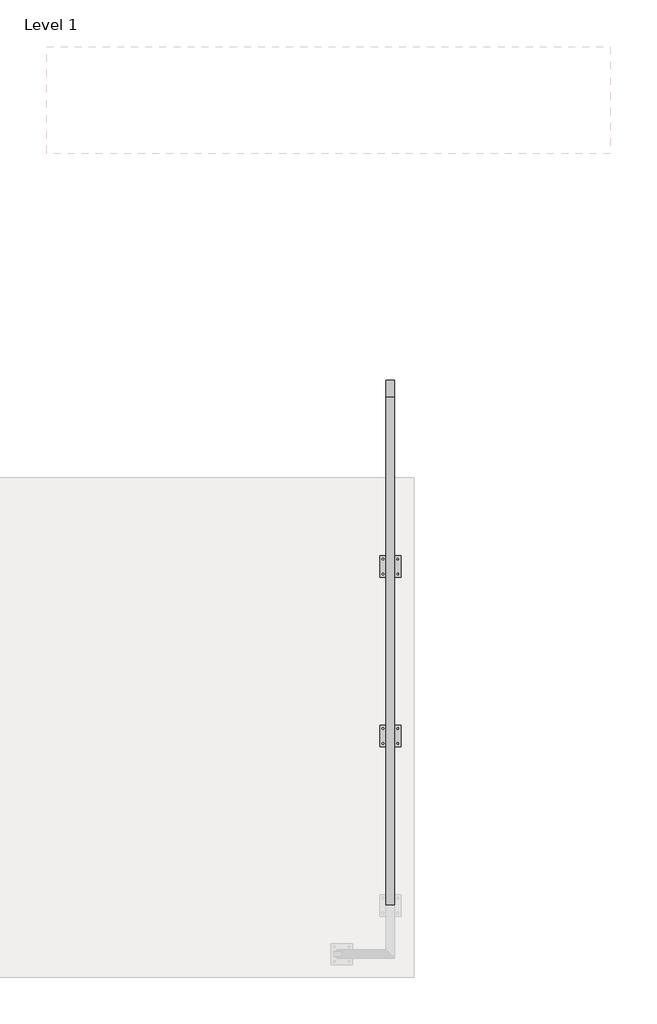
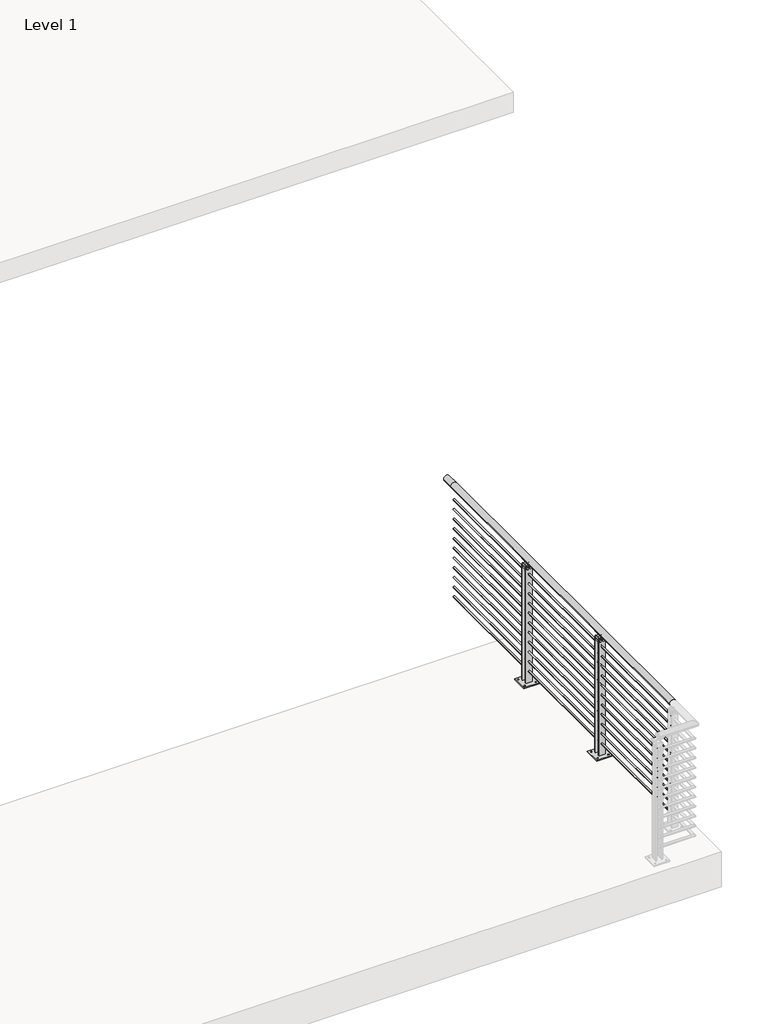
# One storey, part 8 of 36: 1 railing.
"""IFC4 building model written with IfcOpenShell, lengths in millimetres."""

from ifc_helpers import new_model, si_unit, point, frame, frame_2d, origin, origin_with_axes, place, context, project, spatial, polyline, circle_curve, trimmed, segment, composite_curve, outline, extrude, element, save
from ifc_brep_helpers import plane_surface, cylinder_surface, revolved_surface, advanced_brep

model = new_model("IFC4")

# Units and contexts
model_context = context("Model", 3, world=origin())
ifc_project = project(units=[si_unit("LENGTHUNIT", "METRE", prefix="MILLI")], contexts=[model_context])

# Site, building, storey
site = spatial("IfcSite", under=ifc_project)
building = spatial("IfcBuilding", under=site)
storey = spatial("IfcBuildingStorey", under=building, Name="Level 1", Elevation=0.0)

# Railing
placement = place(None, origin())
element("IfcRailing", 1, ObjectType="VIVA-BLADE-Multiline-Floor Mount-Straight", at=placement, inside=storey, context=model_context, shape_type="SolidModel", body=[
    advanced_brep(
    [(19628.0155247, -74583.4334719, 1054.1), (19577.2155247, -74583.4334719, 1054.1), (19628.0155247, -71535.4334719, 1054.1), (19577.2155247, -71535.4334719, 1054.1), (19628.0155247, -71433.8334719, 1054.1), (19577.2155247, -71433.8334719, 1054.1)],
    [
        (0, 1, circle_curve(frame((19602.6155247, -74583.4334719, 1054.1), z_axis=(0.0, -1.0, 0.0), x_axis=(-1.0, 0.0, 0.0)), 25.4)),
        (1, 0, circle_curve(frame((19602.6155247, -74583.4334719, 1054.1), z_axis=(0.0, -1.0, 0.0), x_axis=(-1.0, 0.0, 0.0)), 25.4)),
        (0, 2),
        (2, 3, circle_curve(frame((19602.6155247, -71535.4334719, 1054.1), z_axis=(0.0, -1.0, 0.0), x_axis=(-1.0, 0.0, 0.0)), 25.4)),
        (3, 1),
        (3, 2, circle_curve(frame((19602.6155247, -71535.4334719, 1054.1), z_axis=(0.0, -1.0, 0.0), x_axis=(-1.0, 0.0, 0.0)), 25.4)),
        (4, 5, circle_curve(frame((19602.6155247, -71433.8334719, 1054.1), z_axis=(0.0, 1.0, 0.0), x_axis=(-1.0, 0.0, 0.0)), 25.4)),
        (5, 4, circle_curve(frame((19602.6155247, -71433.8334719, 1054.1), z_axis=(0.0, 1.0, 0.0), x_axis=(-1.0, 0.0, 0.0)), 25.4)),
        (2, 4),
        (5, 3),
    ],
    [
        plane_surface(frame((19602.6155247, -74583.4334719, 1079.5), z_axis=(0.0, -1.0, 0.0), x_axis=(0.0, 0.0, 1.0))),
        cylinder_surface(frame((19602.6155247, -74583.4334719, 1054.1), z_axis=(0.0, -1.0, 0.0), x_axis=(-1.0, 0.0, 0.0)), 25.4),
        plane_surface(frame((19602.6155247, -71433.8334719, 1079.5), z_axis=(0.0, 1.0, 0.0), x_axis=(0.0, 0.0, 1.0))),
        cylinder_surface(frame((19602.6155247, -71535.4334719, 1054.1), z_axis=(0.0, -1.0, 0.0), x_axis=(-1.0, 0.0, 0.0)), 25.4),
    ],
    [
        (0, [[1, 2]]),
        (1, [[-1, 3, 4, 5]]),
        (1, [[-2, -5, 6, -3]]),
        (2, [[7, 8]]),
        (3, [[-4, 9, -8, 10]]),
        (3, [[-6, -10, -7, -9]]),
    ],
),
    extrude(outline(composite_curve([segment(trimmed(circle_curve(frame_2d((933.45, 19602.6155247)), 6.35), [point((933.45, 19596.2655247))], [point((933.45, 19608.9655247))], False, "CARTESIAN"), True, "CONTINUOUS"), segment(trimmed(circle_curve(frame_2d((933.45, 19602.6155247)), 6.35), [point((933.45, 19608.9655247))], [point((933.45, 19596.2655247))], False, "CARTESIAN"), True, "CONTINUOUS")], self_intersect=False)), frame((0.0, -74583.4334719, 0.0), z_axis=(0.0, 1.0, 0.0), x_axis=(0.0, 0.0, 1.0)), (0.0, 0.0, 1.0), 3048.0),
    extrude(outline(composite_curve([segment(trimmed(circle_curve(frame_2d((850.9, 19602.6155247)), 6.35), [point((850.9, 19596.2655247))], [point((850.9, 19608.9655247))], False, "CARTESIAN"), True, "CONTINUOUS"), segment(trimmed(circle_curve(frame_2d((850.9, 19602.6155247)), 6.35), [point((850.9, 19608.9655247))], [point((850.9, 19596.2655247))], False, "CARTESIAN"), True, "CONTINUOUS")], self_intersect=False)), frame((0.0, -74583.4334719, 0.0), z_axis=(0.0, 1.0, 0.0), x_axis=(0.0, 0.0, 1.0)), (0.0, 0.0, 1.0), 3048.0),
    extrude(outline(composite_curve([segment(trimmed(circle_curve(frame_2d((768.35, 19602.6155247)), 6.35), [point((768.35, 19596.2655247))], [point((768.35, 19608.9655247))], False, "CARTESIAN"), True, "CONTINUOUS"), segment(trimmed(circle_curve(frame_2d((768.35, 19602.6155247)), 6.35), [point((768.35, 19608.9655247))], [point((768.35, 19596.2655247))], False, "CARTESIAN"), True, "CONTINUOUS")], self_intersect=False)), frame((0.0, -74583.4334719, 0.0), z_axis=(0.0, 1.0, 0.0), x_axis=(0.0, 0.0, 1.0)), (0.0, 0.0, 1.0), 3048.0),
    extrude(outline(composite_curve([segment(trimmed(circle_curve(frame_2d((685.8, 19602.6155247)), 6.35), [point((685.8, 19596.2655247))], [point((685.8, 19608.9655247))], False, "CARTESIAN"), True, "CONTINUOUS"), segment(trimmed(circle_curve(frame_2d((685.8, 19602.6155247)), 6.35), [point((685.8, 19608.9655247))], [point((685.8, 19596.2655247))], False, "CARTESIAN"), True, "CONTINUOUS")], self_intersect=False)), frame((0.0, -74583.4334719, 0.0), z_axis=(0.0, 1.0, 0.0), x_axis=(0.0, 0.0, 1.0)), (0.0, 0.0, 1.0), 3048.0),
    extrude(outline(composite_curve([segment(trimmed(circle_curve(frame_2d((603.25, 19602.6155247)), 6.35), [point((603.25, 19596.2655247))], [point((603.25, 19608.9655247))], False, "CARTESIAN"), True, "CONTINUOUS"), segment(trimmed(circle_curve(frame_2d((603.25, 19602.6155247)), 6.35), [point((603.25, 19608.9655247))], [point((603.25, 19596.2655247))], False, "CARTESIAN"), True, "CONTINUOUS")], self_intersect=False)), frame((0.0, -74583.4334719, 0.0), z_axis=(0.0, 1.0, 0.0), x_axis=(0.0, 0.0, 1.0)), (0.0, 0.0, 1.0), 3048.0),
    extrude(outline(composite_curve([segment(trimmed(circle_curve(frame_2d((520.7, 19602.6155247)), 6.35), [point((520.7, 19596.2655247))], [point((520.7, 19608.9655247))], False, "CARTESIAN"), True, "CONTINUOUS"), segment(trimmed(circle_curve(frame_2d((520.7, 19602.6155247)), 6.35), [point((520.7, 19608.9655247))], [point((520.7, 19596.2655247))], False, "CARTESIAN"), True, "CONTINUOUS")], self_intersect=False)), frame((0.0, -74583.4334719, 0.0), z_axis=(0.0, 1.0, 0.0), x_axis=(0.0, 0.0, 1.0)), (0.0, 0.0, 1.0), 3048.0),
    extrude(outline(composite_curve([segment(trimmed(circle_curve(frame_2d((438.15, 19602.6155247)), 6.35), [point((438.15, 19596.2655247))], [point((438.15, 19608.9655247))], False, "CARTESIAN"), True, "CONTINUOUS"), segment(trimmed(circle_curve(frame_2d((438.15, 19602.6155247)), 6.35), [point((438.15, 19608.9655247))], [point((438.15, 19596.2655247))], False, "CARTESIAN"), True, "CONTINUOUS")], self_intersect=False)), frame((0.0, -74583.4334719, 0.0), z_axis=(0.0, 1.0, 0.0), x_axis=(0.0, 0.0, 1.0)), (0.0, 0.0, 1.0), 3048.0),
    extrude(outline(composite_curve([segment(trimmed(circle_curve(frame_2d((355.6, 19602.6155247)), 6.35), [point((355.6, 19596.2655247))], [point((355.6, 19608.9655247))], False, "CARTESIAN"), True, "CONTINUOUS"), segment(trimmed(circle_curve(frame_2d((355.6, 19602.6155247)), 6.35), [point((355.6, 19608.9655247))], [point((355.6, 19596.2655247))], False, "CARTESIAN"), True, "CONTINUOUS")], self_intersect=False)), frame((0.0, -74583.4334719, 0.0), z_axis=(0.0, 1.0, 0.0), x_axis=(0.0, 0.0, 1.0)), (0.0, 0.0, 1.0), 3048.0),
    extrude(outline(composite_curve([segment(trimmed(circle_curve(frame_2d((273.05, 19602.6155247)), 6.35), [point((273.05, 19596.2655247))], [point((273.05, 19608.9655247))], False, "CARTESIAN"), True, "CONTINUOUS"), segment(trimmed(circle_curve(frame_2d((273.05, 19602.6155247)), 6.35), [point((273.05, 19608.9655247))], [point((273.05, 19596.2655247))], False, "CARTESIAN"), True, "CONTINUOUS")], self_intersect=False)), frame((0.0, -74583.4334719, 0.0), z_axis=(0.0, 1.0, 0.0), x_axis=(0.0, 0.0, 1.0)), (0.0, 0.0, 1.0), 3048.0),
    extrude(outline(composite_curve([segment(trimmed(circle_curve(frame_2d((190.5, 19602.6155247)), 6.35), [point((190.5, 19596.2655247))], [point((190.5, 19608.9655247))], False, "CARTESIAN"), True, "CONTINUOUS"), segment(trimmed(circle_curve(frame_2d((190.5, 19602.6155247)), 6.35), [point((190.5, 19608.9655247))], [point((190.5, 19596.2655247))], False, "CARTESIAN"), True, "CONTINUOUS")], self_intersect=False)), frame((0.0, -74583.4334719, 0.0), z_axis=(0.0, 1.0, 0.0), x_axis=(0.0, 0.0, 1.0)), (0.0, 0.0, 1.0), 3048.0),
    extrude(outline(composite_curve([segment(trimmed(circle_curve(frame_2d((107.95, 19602.6155247)), 6.35), [point((107.95, 19596.2655247))], [point((107.95, 19608.9655247))], False, "CARTESIAN"), True, "CONTINUOUS"), segment(trimmed(circle_curve(frame_2d((107.95, 19602.6155247)), 6.35), [point((107.95, 19608.9655247))], [point((107.95, 19596.2655247))], False, "CARTESIAN"), True, "CONTINUOUS")], self_intersect=False)), frame((0.0, -74583.4334719, 0.0), z_axis=(0.0, 1.0, 0.0), x_axis=(0.0, 0.0, 1.0)), (0.0, 0.0, 1.0), 3048.0),
    advanced_brep(
    [(19589.8554011, -72506.1960719, 1032.0967655), (19614.7274656, -72506.1960719, 1031.9535285), (19617.5363959, -72506.1960719, 1027.1267745), (19586.0195037, -72506.1960719, 1027.707533), (19589.8554011, -72596.6708719, 1032.0967655), (19586.0195037, -72596.6708719, 1027.707533), (19617.6501893, -72596.6708719, 1027.1893964), (19614.8144377, -72596.6708719, 1032.0018447)],
    [
        (0, 1, circle_curve(frame((19602.419204, -72506.1960719, 1054.2115898), z_axis=(0.0, -1.0, 0.0), x_axis=(-1.0, 0.0, 0.0)), 25.4345159)),
        (1, 2, circle_curve(frame((19616.0590908, -72506.1960719, 1029.4993599), z_axis=(0.0, 1.0, 0.0), x_axis=(-1.0, 0.0, 0.0)), 2.7949225)),
        (2, 3, circle_curve(frame((19602.2857409, -72506.1960719, 1054.9742164), z_axis=(0.0, 1.0, 0.0), x_axis=(-1.0, 0.0, 0.0)), 31.75)),
        (3, 0, circle_curve(frame((19588.3078434, -72506.1960719, 1029.5784521), z_axis=(0.0, 1.0, 0.0), x_axis=(-1.0, 0.0, 0.0)), 2.9558141)),
        (4, 5, circle_curve(frame((19588.3078434, -72596.6708719, 1029.5784521), z_axis=(0.0, -1.0, 0.0), x_axis=(-1.0, 0.0, 0.0)), 2.9558141)),
        (5, 6, circle_curve(frame((19602.2857409, -72596.6708719, 1054.9742164), z_axis=(0.0, -1.0, 0.0), x_axis=(-1.0, 0.0, 0.0)), 31.75)),
        (6, 7, circle_curve(frame((19616.0590908, -72596.6708719, 1029.4993599), z_axis=(0.0, -1.0, 0.0), x_axis=(-1.0, 0.0, 0.0)), 2.7949225)),
        (7, 4, circle_curve(frame((19602.419204, -72596.6708719, 1054.2115898), z_axis=(0.0, 1.0, 0.0), x_axis=(-1.0, 0.0, 0.0)), 25.4345159)),
        (0, 4),
        (7, 1),
        (6, 2),
        (5, 3),
    ],
    [
        plane_surface(frame((19576.9846881, -72506.1960719, 1054.2115898), z_axis=(0.0, 1.0, 0.0), x_axis=(0.0, 0.0, -1.0))),
        plane_surface(frame((19576.9846881, -72596.6708719, 1054.2115898), z_axis=(0.0, -1.0, 0.0), x_axis=(0.0, 0.0, 1.0))),
        revolved_surface(polyline([(19576.9846881, -72596.6708719, 1054.2115898), (19576.9846881, -72506.1960719, 1054.2115898)]), (19602.419204, -72596.6708719, 1054.2115898), (0.0, -1.0, 0.0)),
        cylinder_surface(frame((19616.0590908, -72596.6708719, 1029.4993599), z_axis=(0.0, 1.0, 0.0), x_axis=(-1.0, 0.0, 0.0)), 2.7949225),
        cylinder_surface(frame((19602.2857409, -72596.6708719, 1054.9742164), z_axis=(0.0, 1.0, 0.0), x_axis=(-1.0, 0.0, 0.0)), 31.75),
        cylinder_surface(frame((19588.3078434, -72596.6708719, 1029.5784521), z_axis=(0.0, 1.0, 0.0), x_axis=(-1.0, 0.0, 0.0)), 2.9558141),
    ],
    [
        (0, [[1, 2, 3, 4]]),
        (1, [[5, 6, 7, 8]]),
        (2, [[-1, 9, -8, 10]]),
        (3, [[-2, -10, -7, 11]]),
        (4, [[-3, -11, -6, 12]]),
        (5, [[-4, -12, -5, -9]]),
    ],
),
    advanced_brep(
    [(19600.0755247, -72538.7334719, 1014.4125), (19600.0755247, -72564.1334719, 1014.4125), (19600.0755247, -72578.5013867, 1028.7804149), (19600.0755247, -72524.365557, 1028.7804149), (19605.1555247, -72538.7334719, 1014.4125), (19605.1555247, -72524.365557, 1028.7804149), (19605.1555247, -72578.5013867, 1028.7804149), (19605.1555247, -72564.1334719, 1014.4125)],
    [
        (0, 1),
        (1, 2, circle_curve(frame((19600.0755247, -72578.5013867, 1014.4125), z_axis=(1.0, 0.0, 0.0), x_axis=(0.0, -1.0, 0.0)), 14.3679149)),
        (2, 3),
        (3, 0, circle_curve(frame((19600.0755247, -72524.365557, 1014.4125), z_axis=(1.0, 0.0, 0.0), x_axis=(0.0, -1.0, 0.0)), 14.3679149)),
        (4, 5, circle_curve(frame((19605.1555247, -72524.365557, 1014.4125), z_axis=(-1.0, 0.0, 0.0), x_axis=(0.0, -1.0, 0.0)), 14.3679149)),
        (5, 6),
        (6, 7, circle_curve(frame((19605.1555247, -72578.5013867, 1014.4125), z_axis=(-1.0, 0.0, 0.0), x_axis=(0.0, -1.0, 0.0)), 14.3679149)),
        (7, 4),
        (0, 4),
        (7, 1),
        (6, 2),
        (5, 3),
    ],
    [
        plane_surface(frame((19600.0755247, -72564.1334719, 1014.4125), z_axis=(-1.0, 0.0, 0.0), x_axis=(0.0, -1.0, 0.0))),
        plane_surface(frame((19605.1555247, -72564.1334719, 1014.4125), z_axis=(1.0, 0.0, 0.0), x_axis=(0.0, 1.0, 0.0))),
        plane_surface(frame((19600.0755247, -72538.7334719, 1014.4125), z_axis=(0.0, 0.0, -1.0), x_axis=(1.0, 0.0, 0.0))),
        revolved_surface(polyline([(19605.1555247, -72592.86930159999, 1014.4125), (19600.0755247, -72592.86930159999, 1014.4125)]), (19605.1555247, -72578.5013867, 1014.4125), (1.0, 0.0, 0.0)),
        plane_surface(frame((19600.0755247, -72578.5013867, 1028.7804149), z_axis=(0.0, 0.0, 1.0), x_axis=(1.0, 0.0, 0.0))),
        revolved_surface(polyline([(19605.1555247, -72538.73347189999, 1014.4125), (19600.0755247, -72538.73347189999, 1014.4125)]), (19605.1555247, -72524.365557, 1014.4125), (1.0, 0.0, 0.0)),
    ],
    [
        (0, [[1, 2, 3, 4]]),
        (1, [[5, 6, 7, 8]]),
        (2, [[-1, 9, -8, 10]]),
        (3, [[-2, -10, -7, 11]]),
        (4, [[-3, -11, -6, 12]]),
        (5, [[-4, -12, -5, -9]]),
    ],
),
    extrude(outline(polyline([(19666.1143306, -72487.9454087), (19666.1143306, -72614.9454087), (19539.1167188, -72614.9454087), (19539.1167188, -72487.9454087), (19666.1143306, -72487.9454087)]), holes=[composite_curve([segment(trimmed(circle_curve(frame_2d((19647.0643306, -72595.8954087)), 4.7625), [point((19651.8268306, -72595.8954087))], [point((19642.3018306, -72595.8954087))], True, "CARTESIAN"), True, "CONTINUOUS"), segment(trimmed(circle_curve(frame_2d((19647.0643306, -72595.8954087)), 4.7625), [point((19642.3018306, -72595.8954087))], [point((19651.8268306, -72595.8954087))], True, "CARTESIAN"), True, "CONTINUOUS")], self_intersect=False), composite_curve([segment(trimmed(circle_curve(frame_2d((19558.1667188, -72595.8954087)), 4.7625), [point((19562.9292188, -72595.8954087))], [point((19553.4042188, -72595.8954087))], True, "CARTESIAN"), True, "CONTINUOUS"), segment(trimmed(circle_curve(frame_2d((19558.1667188, -72595.8954087)), 4.7625), [point((19553.4042188, -72595.8954087))], [point((19562.9292188, -72595.8954087))], True, "CARTESIAN"), True, "CONTINUOUS")], self_intersect=False), composite_curve([segment(trimmed(circle_curve(frame_2d((19558.1667188, -72506.9954087)), 4.7625), [point((19562.9292188, -72506.9954087))], [point((19553.4042188, -72506.9954087))], True, "CARTESIAN"), True, "CONTINUOUS"), segment(trimmed(circle_curve(frame_2d((19558.1667188, -72506.9954087)), 4.7625), [point((19553.4042188, -72506.9954087))], [point((19562.9292188, -72506.9954087))], True, "CARTESIAN"), True, "CONTINUOUS")], self_intersect=False), composite_curve([segment(trimmed(circle_curve(frame_2d((19647.0643306, -72506.9954087)), 4.7625), [point((19651.8268306, -72506.9954087))], [point((19642.3018306, -72506.9954087))], True, "CARTESIAN"), True, "CONTINUOUS"), segment(trimmed(circle_curve(frame_2d((19647.0643306, -72506.9954087)), 4.7625), [point((19642.3018306, -72506.9954087))], [point((19651.8268306, -72506.9954087))], True, "CARTESIAN"), True, "CONTINUOUS")], self_intersect=False)]), origin_with_axes(), (0.0, 0.0, 1.0), 9.525),
    extrude(outline(polyline([(19577.215728, -72578.5083075), (19577.215728, -72570.4834719), (19628.0180526, -72570.4834719), (19628.0180526, -72578.5083075), (19577.215728, -72578.5083075)])), origin_with_axes(), (0.0, 0.0, 1.0), 996.95),
    extrude(outline(composite_curve([segment(trimmed(circle_curve(frame_2d((986.0416929, 19615.3180016)), 8.89), [point((986.0416929, 19624.2080016))], [point((986.0416929, 19606.4280016))], False, "CARTESIAN"), True, "CONTINUOUS"), segment(trimmed(circle_curve(frame_2d((986.0416929, 19615.3180016)), 8.89), [point((986.0416929, 19606.4280016))], [point((986.0416929, 19624.2080016))], False, "CARTESIAN"), True, "CONTINUOUS")], self_intersect=False)), frame((0.0, -72583.1834719, 0.0), z_axis=(0.0, 1.0, 0.0), x_axis=(0.0, 0.0, 1.0)), (0.0, 0.0, 1.0), 63.4880631),
    extrude(outline(composite_curve([segment(trimmed(circle_curve(frame_2d((986.0416929, 19589.9181037)), 8.89), [point((986.0416929, 19598.8081037))], [point((986.0416929, 19581.0281037))], False, "CARTESIAN"), True, "CONTINUOUS"), segment(trimmed(circle_curve(frame_2d((986.0416929, 19589.9181037)), 8.89), [point((986.0416929, 19581.0281037))], [point((986.0416929, 19598.8081037))], False, "CARTESIAN"), True, "CONTINUOUS")], self_intersect=False)), frame((0.0, -72583.1834719, 0.0), z_axis=(0.0, 1.0, 0.0), x_axis=(0.0, 0.0, 1.0)), (0.0, 0.0, 1.0), 63.4880631),
    extrude(outline(polyline([(-72570.4834719, 974.7123), (-72570.4834719, 1008.0625), (-72564.1334719, 1014.4125), (-72538.7334719, 1014.4125), (-72532.3834719, 1008.0625), (-72532.3834719, 974.7123), (-72570.4834719, 974.7123)])), frame((19577.2155247, 0.0, 0.0), z_axis=(1.0, 0.0, 0.0), x_axis=(0.0, 1.0, 0.0)), (0.0, 0.0, 1.0), 50.8025279),
    extrude(outline(polyline([(19577.215728, -72532.3835099), (19577.215728, -72524.3825099), (19628.0180526, -72524.3825099), (19628.0180526, -72532.3835099), (19577.215728, -72532.3835099)])), origin_with_axes(), (0.0, 0.0, 1.0), 996.95),
    advanced_brep(
    [(19589.8554011, -73522.1960719, 1032.0967655), (19614.7274656, -73522.1960719, 1031.9535285), (19617.5363959, -73522.1960719, 1027.1267745), (19586.0195037, -73522.1960719, 1027.707533), (19589.8554011, -73612.6708719, 1032.0967655), (19586.0195037, -73612.6708719, 1027.707533), (19617.6501893, -73612.6708719, 1027.1893964), (19614.8144377, -73612.6708719, 1032.0018447)],
    [
        (0, 1, circle_curve(frame((19602.419204, -73522.1960719, 1054.2115898), z_axis=(0.0, -1.0, 0.0), x_axis=(-1.0, 0.0, 0.0)), 25.4345159)),
        (1, 2, circle_curve(frame((19616.0590908, -73522.1960719, 1029.4993599), z_axis=(0.0, 1.0, 0.0), x_axis=(-1.0, 0.0, 0.0)), 2.7949225)),
        (2, 3, circle_curve(frame((19602.2857409, -73522.1960719, 1054.9742164), z_axis=(0.0, 1.0, 0.0), x_axis=(-1.0, 0.0, 0.0)), 31.75)),
        (3, 0, circle_curve(frame((19588.3078434, -73522.1960719, 1029.5784521), z_axis=(0.0, 1.0, 0.0), x_axis=(-1.0, 0.0, 0.0)), 2.9558141)),
        (4, 5, circle_curve(frame((19588.3078434, -73612.6708719, 1029.5784521), z_axis=(0.0, -1.0, 0.0), x_axis=(-1.0, 0.0, 0.0)), 2.9558141)),
        (5, 6, circle_curve(frame((19602.2857409, -73612.6708719, 1054.9742164), z_axis=(0.0, -1.0, 0.0), x_axis=(-1.0, 0.0, 0.0)), 31.75)),
        (6, 7, circle_curve(frame((19616.0590908, -73612.6708719, 1029.4993599), z_axis=(0.0, -1.0, 0.0), x_axis=(-1.0, 0.0, 0.0)), 2.7949225)),
        (7, 4, circle_curve(frame((19602.419204, -73612.6708719, 1054.2115898), z_axis=(0.0, 1.0, 0.0), x_axis=(-1.0, 0.0, 0.0)), 25.4345159)),
        (0, 4),
        (7, 1),
        (6, 2),
        (5, 3),
    ],
    [
        plane_surface(frame((19576.9846881, -73522.1960719, 1054.2115898), z_axis=(0.0, 1.0, 0.0), x_axis=(0.0, 0.0, -1.0))),
        plane_surface(frame((19576.9846881, -73612.6708719, 1054.2115898), z_axis=(0.0, -1.0, 0.0), x_axis=(0.0, 0.0, 1.0))),
        revolved_surface(polyline([(19576.9846881, -73612.6708719, 1054.2115898), (19576.9846881, -73522.1960719, 1054.2115898)]), (19602.419204, -73612.6708719, 1054.2115898), (0.0, -1.0, 0.0)),
        cylinder_surface(frame((19616.0590908, -73612.6708719, 1029.4993599), z_axis=(0.0, 1.0, 0.0), x_axis=(-1.0, 0.0, 0.0)), 2.7949225),
        cylinder_surface(frame((19602.2857409, -73612.6708719, 1054.9742164), z_axis=(0.0, 1.0, 0.0), x_axis=(-1.0, 0.0, 0.0)), 31.75),
        cylinder_surface(frame((19588.3078434, -73612.6708719, 1029.5784521), z_axis=(0.0, 1.0, 0.0), x_axis=(-1.0, 0.0, 0.0)), 2.9558141),
    ],
    [
        (0, [[1, 2, 3, 4]]),
        (1, [[5, 6, 7, 8]]),
        (2, [[-1, 9, -8, 10]]),
        (3, [[-2, -10, -7, 11]]),
        (4, [[-3, -11, -6, 12]]),
        (5, [[-4, -12, -5, -9]]),
    ],
),
    advanced_brep(
    [(19600.0755247, -73554.7334719, 1014.4125), (19600.0755247, -73580.1334719, 1014.4125), (19600.0755247, -73594.5013867, 1028.7804149), (19600.0755247, -73540.365557, 1028.7804149), (19605.1555247, -73554.7334719, 1014.4125), (19605.1555247, -73540.365557, 1028.7804149), (19605.1555247, -73594.5013867, 1028.7804149), (19605.1555247, -73580.1334719, 1014.4125)],
    [
        (0, 1),
        (1, 2, circle_curve(frame((19600.0755247, -73594.5013867, 1014.4125), z_axis=(1.0, 0.0, 0.0), x_axis=(0.0, -1.0, 0.0)), 14.3679149)),
        (2, 3),
        (3, 0, circle_curve(frame((19600.0755247, -73540.365557, 1014.4125), z_axis=(1.0, 0.0, 0.0), x_axis=(0.0, -1.0, 0.0)), 14.3679149)),
        (4, 5, circle_curve(frame((19605.1555247, -73540.365557, 1014.4125), z_axis=(-1.0, 0.0, 0.0), x_axis=(0.0, -1.0, 0.0)), 14.3679149)),
        (5, 6),
        (6, 7, circle_curve(frame((19605.1555247, -73594.5013867, 1014.4125), z_axis=(-1.0, 0.0, 0.0), x_axis=(0.0, -1.0, 0.0)), 14.3679149)),
        (7, 4),
        (0, 4),
        (7, 1),
        (6, 2),
        (5, 3),
    ],
    [
        plane_surface(frame((19600.0755247, -73580.1334719, 1014.4125), z_axis=(-1.0, 0.0, 0.0), x_axis=(0.0, -1.0, 0.0))),
        plane_surface(frame((19605.1555247, -73580.1334719, 1014.4125), z_axis=(1.0, 0.0, 0.0), x_axis=(0.0, 1.0, 0.0))),
        plane_surface(frame((19600.0755247, -73554.7334719, 1014.4125), z_axis=(0.0, 0.0, -1.0), x_axis=(1.0, 0.0, 0.0))),
        revolved_surface(polyline([(19605.1555247, -73608.86930159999, 1014.4125), (19600.0755247, -73608.86930159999, 1014.4125)]), (19605.1555247, -73594.5013867, 1014.4125), (1.0, 0.0, 0.0)),
        plane_surface(frame((19600.0755247, -73594.5013867, 1028.7804149), z_axis=(0.0, 0.0, 1.0), x_axis=(1.0, 0.0, 0.0))),
        revolved_surface(polyline([(19605.1555247, -73554.73347189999, 1014.4125), (19600.0755247, -73554.73347189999, 1014.4125)]), (19605.1555247, -73540.365557, 1014.4125), (1.0, 0.0, 0.0)),
    ],
    [
        (0, [[1, 2, 3, 4]]),
        (1, [[5, 6, 7, 8]]),
        (2, [[-1, 9, -8, 10]]),
        (3, [[-2, -10, -7, 11]]),
        (4, [[-3, -11, -6, 12]]),
        (5, [[-4, -12, -5, -9]]),
    ],
),
    extrude(outline(polyline([(19666.1143306, -73503.9454087), (19666.1143306, -73630.9454087), (19539.1167188, -73630.9454087), (19539.1167188, -73503.9454087), (19666.1143306, -73503.9454087)]), holes=[composite_curve([segment(trimmed(circle_curve(frame_2d((19647.0643306, -73611.8954087)), 4.7625), [point((19651.8268306, -73611.8954087))], [point((19642.3018306, -73611.8954087))], True, "CARTESIAN"), True, "CONTINUOUS"), segment(trimmed(circle_curve(frame_2d((19647.0643306, -73611.8954087)), 4.7625), [point((19642.3018306, -73611.8954087))], [point((19651.8268306, -73611.8954087))], True, "CARTESIAN"), True, "CONTINUOUS")], self_intersect=False), composite_curve([segment(trimmed(circle_curve(frame_2d((19558.1667188, -73611.8954087)), 4.7625), [point((19562.9292188, -73611.8954087))], [point((19553.4042188, -73611.8954087))], True, "CARTESIAN"), True, "CONTINUOUS"), segment(trimmed(circle_curve(frame_2d((19558.1667188, -73611.8954087)), 4.7625), [point((19553.4042188, -73611.8954087))], [point((19562.9292188, -73611.8954087))], True, "CARTESIAN"), True, "CONTINUOUS")], self_intersect=False), composite_curve([segment(trimmed(circle_curve(frame_2d((19558.1667188, -73522.9954087)), 4.7625), [point((19562.9292188, -73522.9954087))], [point((19553.4042188, -73522.9954087))], True, "CARTESIAN"), True, "CONTINUOUS"), segment(trimmed(circle_curve(frame_2d((19558.1667188, -73522.9954087)), 4.7625), [point((19553.4042188, -73522.9954087))], [point((19562.9292188, -73522.9954087))], True, "CARTESIAN"), True, "CONTINUOUS")], self_intersect=False), composite_curve([segment(trimmed(circle_curve(frame_2d((19647.0643306, -73522.9954087)), 4.7625), [point((19651.8268306, -73522.9954087))], [point((19642.3018306, -73522.9954087))], True, "CARTESIAN"), True, "CONTINUOUS"), segment(trimmed(circle_curve(frame_2d((19647.0643306, -73522.9954087)), 4.7625), [point((19642.3018306, -73522.9954087))], [point((19651.8268306, -73522.9954087))], True, "CARTESIAN"), True, "CONTINUOUS")], self_intersect=False)]), origin_with_axes(), (0.0, 0.0, 1.0), 9.525),
    extrude(outline(polyline([(19577.215728, -73594.5083075), (19577.215728, -73586.4834719), (19628.0180526, -73586.4834719), (19628.0180526, -73594.5083075), (19577.215728, -73594.5083075)])), origin_with_axes(), (0.0, 0.0, 1.0), 996.95),
    extrude(outline(composite_curve([segment(trimmed(circle_curve(frame_2d((986.0416929, 19615.3180016)), 8.89), [point((986.0416929, 19624.2080016))], [point((986.0416929, 19606.4280016))], False, "CARTESIAN"), True, "CONTINUOUS"), segment(trimmed(circle_curve(frame_2d((986.0416929, 19615.3180016)), 8.89), [point((986.0416929, 19606.4280016))], [point((986.0416929, 19624.2080016))], False, "CARTESIAN"), True, "CONTINUOUS")], self_intersect=False)), frame((0.0, -73599.1834719, 0.0), z_axis=(0.0, 1.0, 0.0), x_axis=(0.0, 0.0, 1.0)), (0.0, 0.0, 1.0), 63.4880631),
    extrude(outline(composite_curve([segment(trimmed(circle_curve(frame_2d((986.0416929, 19589.9181037)), 8.89), [point((986.0416929, 19598.8081037))], [point((986.0416929, 19581.0281037))], False, "CARTESIAN"), True, "CONTINUOUS"), segment(trimmed(circle_curve(frame_2d((986.0416929, 19589.9181037)), 8.89), [point((986.0416929, 19581.0281037))], [point((986.0416929, 19598.8081037))], False, "CARTESIAN"), True, "CONTINUOUS")], self_intersect=False)), frame((0.0, -73599.1834719, 0.0), z_axis=(0.0, 1.0, 0.0), x_axis=(0.0, 0.0, 1.0)), (0.0, 0.0, 1.0), 63.4880631),
    extrude(outline(polyline([(-73586.4834719, 974.7123), (-73586.4834719, 1008.0625), (-73580.1334719, 1014.4125), (-73554.7334719, 1014.4125), (-73548.3834719, 1008.0625), (-73548.3834719, 974.7123), (-73586.4834719, 974.7123)])), frame((19577.2155247, 0.0, 0.0), z_axis=(1.0, 0.0, 0.0), x_axis=(0.0, 1.0, 0.0)), (0.0, 0.0, 1.0), 50.8025279),
    extrude(outline(polyline([(19577.215728, -73548.3835099), (19577.215728, -73540.3825099), (19628.0180526, -73540.3825099), (19628.0180526, -73548.3835099), (19577.215728, -73548.3835099)])), origin_with_axes(), (0.0, 0.0, 1.0), 996.95),
])

save(model, "model.ifc")
